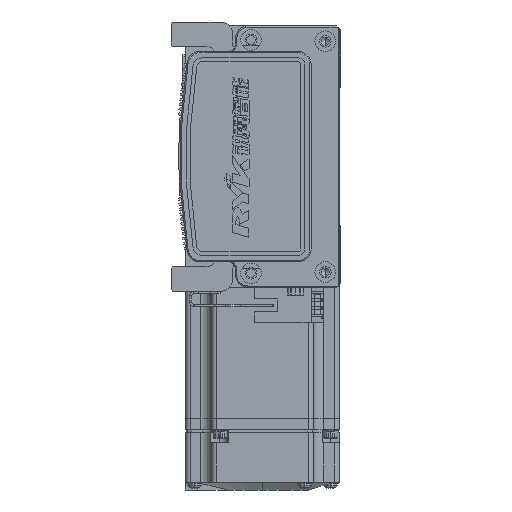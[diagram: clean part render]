
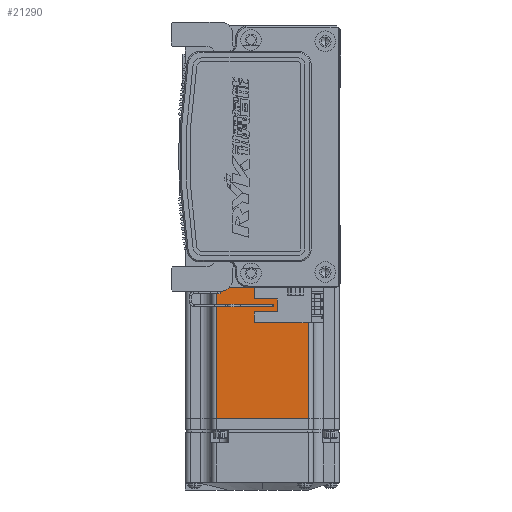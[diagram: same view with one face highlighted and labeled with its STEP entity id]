
A CAD part, left-side view. The second image highlights one B-rep face of the part: STEP entity #21290.
In plain terms, the highlighted planar face has unit normal (-1, 0, 0) as drawn and (0, 0, 1) by its records, which use the part's own axes.
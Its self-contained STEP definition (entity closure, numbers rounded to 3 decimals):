
#2498 = VECTOR ( 'NONE', #20555, 1000. ) ;
#3903 = CARTESIAN_POINT ( 'NONE',  ( -7.75, -18., 30. ) ) ;
#8648 = EDGE_CURVE ( 'NONE', #63424, #57007, #52710, .T. ) ;
#12997 = VERTEX_POINT ( 'NONE', #14643 ) ;
#14643 = CARTESIAN_POINT ( 'NONE',  ( -70.95, -18., 30. ) ) ;
#17540 = AXIS2_PLACEMENT_3D ( 'NONE', #61330, #61115, #18443 ) ;
#18443 = DIRECTION ( 'NONE',  ( 1., 0., 0. ) ) ;
#19101 = EDGE_CURVE ( 'NONE', #57007, #12997, #53993, .T. ) ;
#20555 = DIRECTION ( 'NONE',  ( 0., -1., 0. ) ) ;
#21290 = ADVANCED_FACE ( 'NONE', ( #37225 ), #40044, .T. ) ;
#21810 = CARTESIAN_POINT ( 'NONE',  ( -7.75, 0., 30. ) ) ;
#23471 = VECTOR ( 'NONE', #40086, 1000. ) ;
#29375 = CARTESIAN_POINT ( 'NONE',  ( -6.5, -18., 30. ) ) ;
#30466 = DIRECTION ( 'NONE',  ( -1., 0., 0. ) ) ;
#31150 = VERTEX_POINT ( 'NONE', #3903 ) ;
#33569 = LINE ( 'NONE', #21810, #37706 ) ;
#36782 = ORIENTED_EDGE ( 'NONE', *, *, #19101, .T. ) ;
#36899 = VECTOR ( 'NONE', #30466, 1000. ) ;
#37225 = FACE_OUTER_BOUND ( 'NONE', #67351, .T. ) ;
#37706 = VECTOR ( 'NONE', #64716, 1000. ) ;
#40044 = PLANE ( 'NONE',  #17540 ) ;
#40086 = DIRECTION ( 'NONE',  ( -1., 0., 0. ) ) ;
#46822 = CARTESIAN_POINT ( 'NONE',  ( -70.95, 0., 30. ) ) ;
#47293 = EDGE_CURVE ( 'NONE', #31150, #12997, #64102, .T. ) ;
#48027 = ORIENTED_EDGE ( 'NONE', *, *, #58114, .F. ) ;
#52522 = CARTESIAN_POINT ( 'NONE',  ( -6.5, 18., 30. ) ) ;
#52710 = LINE ( 'NONE', #52522, #36899 ) ;
#53993 = LINE ( 'NONE', #46822, #2498 ) ;
#54597 = ORIENTED_EDGE ( 'NONE', *, *, #8648, .T. ) ;
#54996 = CARTESIAN_POINT ( 'NONE',  ( -7.75, 18., 30. ) ) ;
#57007 = VERTEX_POINT ( 'NONE', #64077 ) ;
#58114 = EDGE_CURVE ( 'NONE', #63424, #31150, #33569, .T. ) ;
#61115 = DIRECTION ( 'NONE',  ( 0., 0., 1. ) ) ;
#61330 = CARTESIAN_POINT ( 'NONE',  ( -6.5, -25., 30. ) ) ;
#63424 = VERTEX_POINT ( 'NONE', #54996 ) ;
#64077 = CARTESIAN_POINT ( 'NONE',  ( -70.95, 18., 30. ) ) ;
#64102 = LINE ( 'NONE', #29375, #23471 ) ;
#64716 = DIRECTION ( 'NONE',  ( 0., -1., 0. ) ) ;
#67351 = EDGE_LOOP ( 'NONE', ( #48027, #54597, #36782, #68135 ) ) ;
#68135 = ORIENTED_EDGE ( 'NONE', *, *, #47293, .F. ) ;
